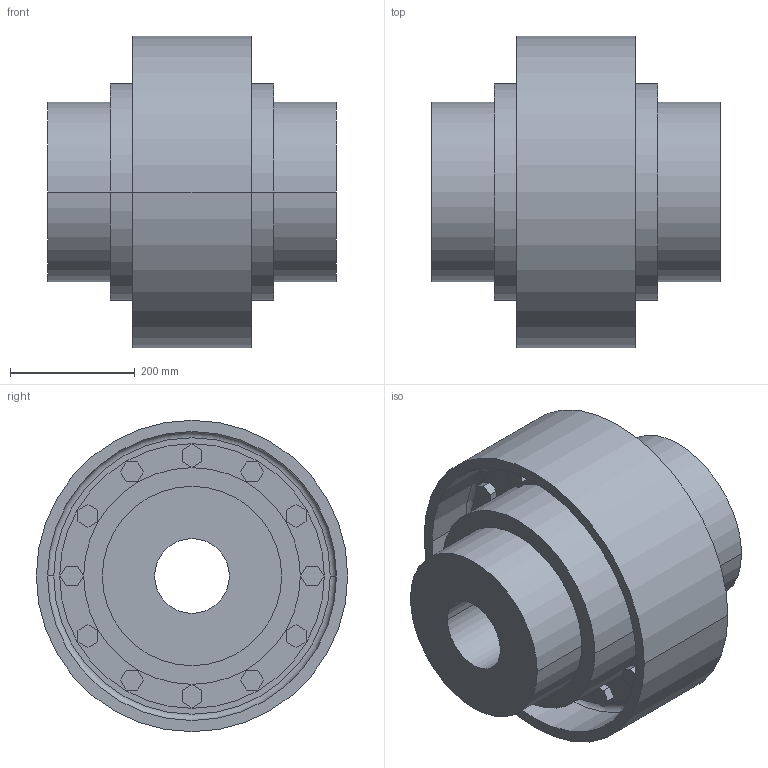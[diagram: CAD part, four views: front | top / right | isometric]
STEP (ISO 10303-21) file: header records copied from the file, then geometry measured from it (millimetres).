
FILE_DESCRIPTION((''),'2;1');
FILE_NAME('A19110000-0_ASM','2018-11-12T',('AB_Roschiwal'),('RENK AG'),'PRO/ENGINEER BY PARAMETRIC TECHNOLOGY CORPORATION, 2015440','PRO/ENGINEER BY PARAMETRIC TECHNOLOGY CORPORATION, 2015440','');
FILE_SCHEMA(('CONFIG_CONTROL_DESIGN'));
Length unit declared in the file: millimetre
Products named in the file (4): LBKD180_GEHAEUSE; LBKD180_NABE; LBKD180_BREMSSCHEIBE; A19110000-0_ASM
Assembly tree (4 placements, depth 2):
  A19110000-0_ASM
    LBKD180_GEHAEUSE
    LBKD180_NABE  x2
    LBKD180_BREMSSCHEIBE
Bounding box: 464 x 500 x 500 mm (x, y, z)
Volume: 39254937.4 mm3; surface area: 2502418.6 mm2
Topology: 4 solids, 4 shells, 292 faces, 704 edges, 468 vertices
Faces by surface type: plane 200, cylinder 88, torus 4
Entity records: 8356 total; most frequent: DIRECTION 1424, CARTESIAN_POINT 1420, ORIENTED_EDGE 1360, EDGE_CURVE 680, VECTOR 512, LINE 512, AXIS2_PLACEMENT_3D 456, VERTEX_POINT 452
